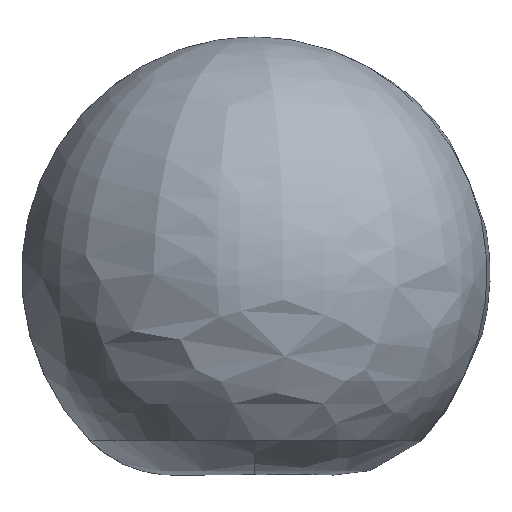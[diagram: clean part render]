
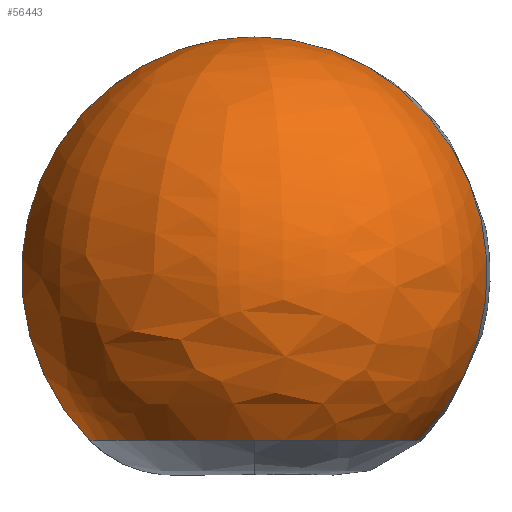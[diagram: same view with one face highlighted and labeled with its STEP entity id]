
A CAD part, front view. The second image highlights one B-rep face of the part: STEP entity #56443.
In plain terms, the highlighted free-form (B-spline) face has degree [3, 3] with [4, 7] control points.
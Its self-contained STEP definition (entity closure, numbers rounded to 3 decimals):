
#4232 = AXIS2_PLACEMENT_3D ( 'NONE', #194992, #196109, #39322 ) ;
#9184 = CARTESIAN_POINT ( 'NONE',  ( 597.78, -607.002, 105.405 ) ) ;
#13661 = CARTESIAN_POINT ( 'NONE',  ( 0., 858.43, 0. ) ) ;
#18968 = CIRCLE ( 'NONE', #4232, 858.43 ) ;
#20921 = CARTESIAN_POINT ( 'NONE',  ( -597.78, -607.002, 105.405 ) ) ;
#26398 = FACE_OUTER_BOUND ( 'NONE', #147372, .T. ) ;
#30882 = CARTESIAN_POINT ( 'NONE',  ( 0., 858.43, 0. ) ) ;
#39322 = DIRECTION ( 'NONE',  ( 0., -1., 0. ) ) ;
#40165 = CARTESIAN_POINT ( 'NONE',  ( -597.78, -607.002, -105.405 ) ) ;
#45816 = CARTESIAN_POINT ( 'NONE',  ( 1654.917, 28.33, -2231.189 ) ) ;
#48941 = CARTESIAN_POINT ( 'NONE',  ( 0., -607.002, 0. ) ) ;
#56443 = ADVANCED_FACE ( 'NONE', ( #26398 ), #223945, .T. ) ;
#61872 = CARTESIAN_POINT ( 'NONE',  ( 386.97, -607.002, 1300.965 ) ) ;
#62990 = CARTESIAN_POINT ( 'NONE',  ( 884.844, 858.43, 156.022 ) ) ;
#64572 = EDGE_CURVE ( 'NONE', #154231, #90677, #170226, .T. ) ;
#65190 = CARTESIAN_POINT ( 'NONE',  ( 1223.459, 28.33, 215.729 ) ) ;
#70617 = ORIENTED_EDGE ( 'NONE', *, *, #64572, .T. ) ;
#75614 = CARTESIAN_POINT ( 'NONE',  ( 808.589, -607.002, -1090.155 ) ) ;
#81326 = VERTEX_POINT ( 'NONE', #20921 ) ;
#82352 = CARTESIAN_POINT ( 'NONE',  ( 1196.888, 858.43, -1613.666 ) ) ;
#82492 = CIRCLE ( 'NONE', #224978, 858.43 ) ;
#88339 = DIRECTION ( 'NONE',  ( 0.985, 0., 0.174 ) ) ;
#90677 = VERTEX_POINT ( 'NONE', #207035 ) ;
#91355 = AXIS2_PLACEMENT_3D ( 'NONE', #48941, #167908, #220575 ) ;
#99512 = CARTESIAN_POINT ( 'NONE',  ( 0., 858.43, 0. ) ) ;
#100634 = CARTESIAN_POINT ( 'NONE',  ( -572.8, 858.43, -1925.71 ) ) ;
#109920 = CARTESIAN_POINT ( 'NONE',  ( -386.97, -607.002, -1300.965 ) ) ;
#111083 = VERTEX_POINT ( 'NONE', #160355 ) ;
#115545 = CARTESIAN_POINT ( 'NONE',  ( -1196.888, 858.43, 1613.666 ) ) ;
#128225 = CARTESIAN_POINT ( 'NONE',  ( -808.589, -607.002, 1090.155 ) ) ;
#131480 = ORIENTED_EDGE ( 'NONE', *, *, #197146, .T. ) ;
#134974 = CARTESIAN_POINT ( 'NONE',  ( 0., 858.43, 0. ) ) ;
#135124 = CIRCLE ( 'NONE', #91355, 607.002 ) ;
#136907 = ORIENTED_EDGE ( 'NONE', *, *, #225775, .T. ) ;
#145384 = CARTESIAN_POINT ( 'NONE',  ( 597.78, -607.002, 105.405 ) ) ;
#147372 = EDGE_LOOP ( 'NONE', ( #70617, #189489, #131480, #136907 ) ) ;
#148349 = AXIS2_PLACEMENT_3D ( 'NONE', #213065, #211910, #88339 ) ;
#154231 = VERTEX_POINT ( 'NONE', #185126 ) ;
#160355 = CARTESIAN_POINT ( 'NONE',  ( 0., 858.43, 0. ) ) ;
#167075 = CARTESIAN_POINT ( 'NONE',  ( 0., 858.43, 0. ) ) ;
#167908 = DIRECTION ( 'NONE',  ( 0., 1., 0. ) ) ;
#168183 = CARTESIAN_POINT ( 'NONE',  ( -1223.459, 28.33, -215.729 ) ) ;
#169305 = CARTESIAN_POINT ( 'NONE',  ( -884.844, 858.43, -156.022 ) ) ;
#170226 = CIRCLE ( 'NONE', #148349, 607.002 ) ;
#170425 = CARTESIAN_POINT ( 'NONE',  ( 884.844, 858.43, 156.022 ) ) ;
#185126 = CARTESIAN_POINT ( 'NONE',  ( 0., -607.002, 607.002 ) ) ;
#187648 = CARTESIAN_POINT ( 'NONE',  ( -1654.917, 28.33, 2231.189 ) ) ;
#189489 = ORIENTED_EDGE ( 'NONE', *, *, #214928, .T. ) ;
#189905 = CARTESIAN_POINT ( 'NONE',  ( 572.8, 858.43, 1925.71 ) ) ;
#194992 = CARTESIAN_POINT ( 'NONE',  ( 0., 0., 0. ) ) ;
#196109 = DIRECTION ( 'NONE',  ( -0.174, 0., 0.985 ) ) ;
#197146 = EDGE_CURVE ( 'NONE', #111083, #81326, #82492, .T. ) ;
#198081 = CARTESIAN_POINT ( 'NONE',  ( 1223.459, 28.33, 215.729 ) ) ;
#199063 = CARTESIAN_POINT ( 'NONE',  ( 0., 0., 0. ) ) ;
#202540 = CARTESIAN_POINT ( 'NONE',  ( -792.001, 28.33, -2662.647 ) ) ;
#203503 = DIRECTION ( 'NONE',  ( 0.174, 0., 0.985 ) ) ;
#204795 = CARTESIAN_POINT ( 'NONE',  ( 0., 858.43, 0. ) ) ;
#207035 = CARTESIAN_POINT ( 'NONE',  ( 597.78, -607.002, 105.405 ) ) ;
#207052 = CARTESIAN_POINT ( 'NONE',  ( 792.001, 28.33, 2662.647 ) ) ;
#211910 = DIRECTION ( 'NONE',  ( 0., 1., 0. ) ) ;
#213065 = CARTESIAN_POINT ( 'NONE',  ( 0., -607.002, 0. ) ) ;
#214928 = EDGE_CURVE ( 'NONE', #90677, #111083, #18968, .T. ) ;
#219723 = CARTESIAN_POINT ( 'NONE',  ( 0., 858.43, 0. ) ) ;
#220575 = DIRECTION ( 'NONE',  ( 0.985, 0., 0.174 ) ) ;
#220690 = DIRECTION ( 'NONE',  ( 0., -1., 0. ) ) ;
#223945 =( BOUNDED_SURFACE ( )  B_SPLINE_SURFACE ( 3, 3, ( 
 ( #9184, #61872, #128225, #40165, #109920, #75614, #145384 ),
 ( #198081, #207052, #187648, #168183, #202540, #45816, #65190 ),
 ( #62990, #189905, #115545, #169305, #100634, #82352, #170425 ),
 ( #134974, #13661, #99512, #167075, #30882, #219723, #204795 ) ),
 .UNSPECIFIED., .F., .T., .F. ) 
 B_SPLINE_SURFACE_WITH_KNOTS ( ( 4, 4 ),
 ( 4, 3, 4 ),
 ( 0., 1. ),
 ( 0., 0.5, 1. ),
 .UNSPECIFIED. ) 
 GEOMETRIC_REPRESENTATION_ITEM ( )  RATIONAL_B_SPLINE_SURFACE ( (
 ( 1., 0.333, 0.333, 1., 0.333, 0.333, 1.),
 ( 0.588, 0.196, 0.196, 0.588, 0.196, 0.196, 0.588),
 ( 0.588, 0.196, 0.196, 0.588, 0.196, 0.196, 0.588),
 ( 1., 0.333, 0.333, 1., 0.333, 0.333, 1.) ) ) 
 REPRESENTATION_ITEM ( '' )  SURFACE ( )  );
#224978 = AXIS2_PLACEMENT_3D ( 'NONE', #199063, #203503, #220690 ) ;
#225775 = EDGE_CURVE ( 'NONE', #81326, #154231, #135124, .T. ) ;
